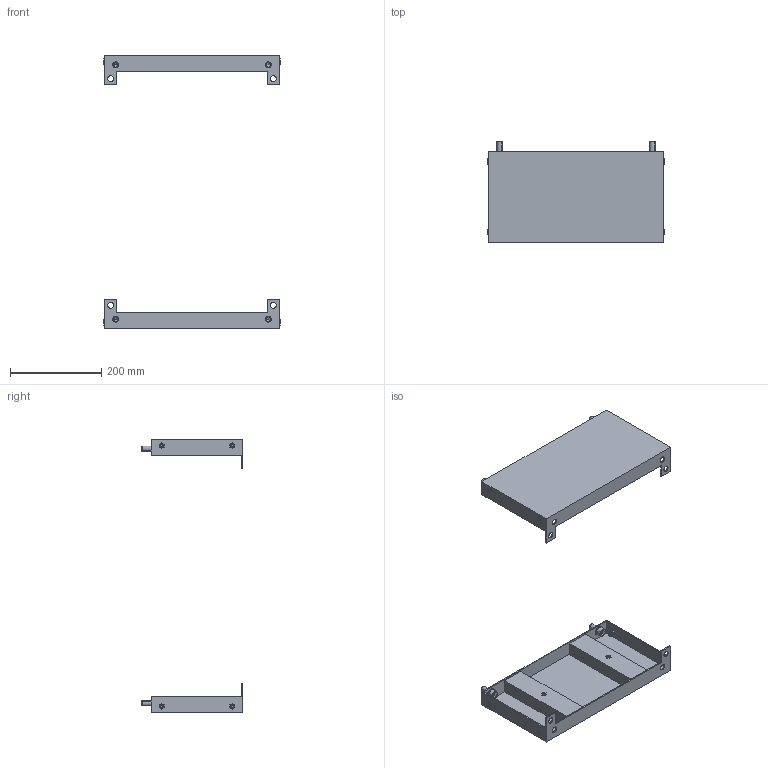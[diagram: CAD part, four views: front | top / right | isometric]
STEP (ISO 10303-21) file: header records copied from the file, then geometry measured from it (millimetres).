
FILE_DESCRIPTION (( 'STEP AP203' ), '1' );
FILE_NAME ('R6PLB45-200 H=600 SIMPLE.STEP', '2026-07-22T11:09:54', ( '' ), ( '' ), 'SwSTEP 2.0', 'SolidWorks 2022', '' );
FILE_SCHEMA (( 'CONFIG_CONTROL_DESIGN' ));
Length unit declared in the file: millimetre
Products named in the file (8): R6PLB45-200 H=600 SIMPLE; РГМЦ.RB.3309.00.00.0 СБ SIMPLE 04-07_-07; РГМЦ.RB.3309.00.01.0 simple_-07; M6 MGS-MPO-0635_straight; РГМЦ.RB.3309.00.02.0 simple_-01; 12 DIN 6798 A Zinc; M12x25 DIN 912 HX cl.8,8 Zinc_stright; M6 MGS-MPO-0635_thread
Assembly tree (19 placements, depth 3):
  R6PLB45-200 H=600 SIMPLE
    РГМЦ.RB.3309.00.00.0 СБ SIMPLE 04-07_-07  x2
      РГМЦ.RB.3309.00.01.0 simple_-07
      M6 MGS-MPO-0635_thread
      РГМЦ.RB.3309.00.02.0 simple_-01
      M6 MGS-MPO-0635_straight
    12 DIN 6798 A Zinc  x4
    M12x25 DIN 912 HX cl.8,8 Zinc_stright  x4
Bounding box: 386.7 x 221.5 x 600 mm (x, y, z)
Volume: 807326.6 mm3; surface area: 660285.8 mm2
Topology: 26 solids, 26 shells, 1468 faces, 3828 edges, 2188 vertices
Faces by surface type: plane 556, cylinder 544, bspline 152, sphere 144, cone 40, torus 32
Entity records: 13372 total; most frequent: CARTESIAN_POINT 5039, ORIENTED_EDGE 1540, DIRECTION 1409, EDGE_CURVE 770, VERTEX_POINT 482, AXIS2_PLACEMENT_3D 473, LINE 463, VECTOR 463
